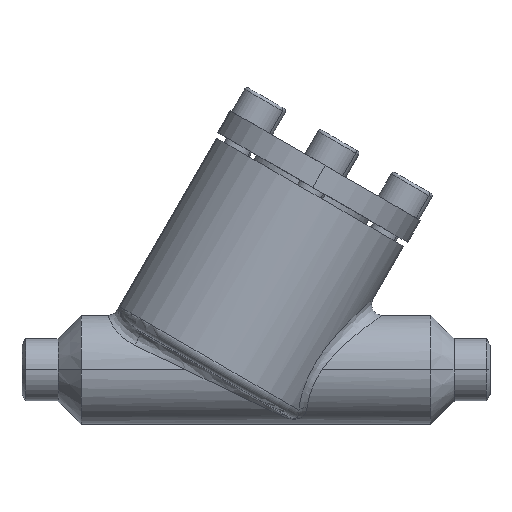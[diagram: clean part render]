
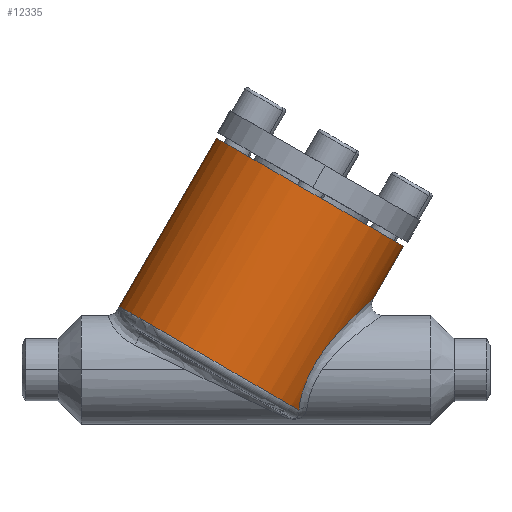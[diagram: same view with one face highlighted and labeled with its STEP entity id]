
A CAD part, top view. The second image highlights one B-rep face of the part: STEP entity #12335.
In plain terms, the highlighted cylindrical face has radius 30 mm (diameter 60 mm), a partial arc.
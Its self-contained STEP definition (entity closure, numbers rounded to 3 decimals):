
#5246 = CARTESIAN_POINT ( 'NONE',  ( 105.962, 34.363, 0. ) ) ;
#5476 = CARTESIAN_POINT ( 'NONE',  ( 54., 64.363, 0. ) ) ;
#5648 = CARTESIAN_POINT ( 'NONE',  ( 76.85, -11.183, 11.847 ) ) ;
#5784 = LINE ( 'NONE', #5785, #5786 ) ;
#5785 = CARTESIAN_POINT ( 'NONE',  ( 105.962, 34.363, 0. ) ) ;
#5786 = VECTOR ( 'NONE', #5789, 1000. ) ;
#5789 = DIRECTION ( 'NONE',  ( -0.5, -0.866, 0. ) ) ;
#6535 = CIRCLE ( 'NONE', #6536, 30. ) ;
#6536 = AXIS2_PLACEMENT_3D ( 'NONE', #6537, #6538, #6539 ) ;
#6537 = CARTESIAN_POINT ( 'NONE',  ( 52.981, 2.598, 0. ) ) ;
#6538 = DIRECTION ( 'NONE',  ( 0.5, 0.866, 0. ) ) ;
#6539 = DIRECTION ( 'NONE',  ( -0.866, 0.5, 0. ) ) ;
#6653 = FACE_OUTER_BOUND ( 'NONE', #12117, .T. ) ;
#6654 = CYLINDRICAL_SURFACE ( 'NONE', #6655, 30. ) ;
#6655 = AXIS2_PLACEMENT_3D ( 'NONE', #6656, #6657, #6658 ) ;
#6656 = CARTESIAN_POINT ( 'NONE',  ( 79.981, 49.363, 0. ) ) ;
#6657 = DIRECTION ( 'NONE',  ( -0.5, -0.866, 0. ) ) ;
#6658 = DIRECTION ( 'NONE',  ( 0.866, -0.5, 0. ) ) ;
#7244 = ORIENTED_EDGE ( 'NONE', *, *, #13519, .T. ) ;
#7717 = VERTEX_POINT ( 'NONE', #5648 ) ;
#7919 = EDGE_CURVE ( 'NONE', #8639, #7717, #6535, .T. ) ;
#8255 = ORIENTED_EDGE ( 'NONE', *, *, #7919, .T. ) ;
#8639 = VERTEX_POINT ( 'NONE', #13325 ) ;
#8724 = EDGE_CURVE ( 'NONE', #9730, #8639, #13340, .T. ) ;
#9059 = ORIENTED_EDGE ( 'NONE', *, *, #8724, .T. ) ;
#9226 = CARTESIAN_POINT ( 'NONE',  ( 97.438, 19.6, 0. ) ) ;
#9531 = VERTEX_POINT ( 'NONE', #5246 ) ;
#9730 = VERTEX_POINT ( 'NONE', #5476 ) ;
#11312 = EDGE_CURVE ( 'NONE', #9730, #9531, #13039, .T. ) ;
#11648 = ORIENTED_EDGE ( 'NONE', *, *, #11312, .F. ) ;
#12117 = EDGE_LOOP ( 'NONE', ( #11648, #9059, #8255, #7244, #13298 ) ) ;
#12335 = ADVANCED_FACE ( 'NONE', ( #6653 ), #6654, .T. ) ;
#12807 = B_SPLINE_CURVE_WITH_KNOTS ( 'NONE', 3,
 ( #12808, #12809, #12810, #12811, #12812, #12813, #12814, #12815, #12816, #12817, #12818, #12819, #12822, #12823, #12824, #12825, #12826, #12827, #12828, #12829, #12830, #12831, #12832, #12833, #12834, #12835, #12836, #12837, #12839, #12840, #12841, #12842, #12843, #12844, #12845, #12846, #12847, #12848, #12849, #12850, #12851, #12852, #12853, #12854, #12856, #12857, #12858, #12859 ),
 .UNSPECIFIED., .F., .F.,
 ( 4, 2, 2, 2, 2, 2, 2, 2, 2, 2, 2, 2, 2, 2, 2, 2, 2, 2, 2, 2, 2, 2, 2, 4 ),
 ( 0., 0.001, 0.003, 0.006, 0.007, 0.009, 0.012, 0.013, 0.015, 0.018, 0.021, 0.022, 0.023, 0.029, 0.032, 0.035, 0.037, 0.038, 0.041, 0.043, 0.044, 0.045, 0.046, 0.047 ),
 .UNSPECIFIED. ) ;
#12808 = CARTESIAN_POINT ( 'NONE',  ( 76.85, -11.183, 11.847 ) ) ;
#12809 = CARTESIAN_POINT ( 'NONE',  ( 76.899, -10.819, 12.172 ) ) ;
#12810 = CARTESIAN_POINT ( 'NONE',  ( 76.955, -10.443, 12.48 ) ) ;
#12811 = CARTESIAN_POINT ( 'NONE',  ( 77.086, -9.668, 13.062 ) ) ;
#12812 = CARTESIAN_POINT ( 'NONE',  ( 77.161, -9.268, 13.338 ) ) ;
#12813 = CARTESIAN_POINT ( 'NONE',  ( 77.413, -8.051, 14.104 ) ) ;
#12814 = CARTESIAN_POINT ( 'NONE',  ( 77.62, -7.214, 14.541 ) ) ;
#12815 = CARTESIAN_POINT ( 'NONE',  ( 77.997, -5.928, 15.093 ) ) ;
#12816 = CARTESIAN_POINT ( 'NONE',  ( 78.134, -5.494, 15.261 ) ) ;
#12817 = CARTESIAN_POINT ( 'NONE',  ( 78.432, -4.617, 15.562 ) ) ;
#12818 = CARTESIAN_POINT ( 'NONE',  ( 78.593, -4.172, 15.696 ) ) ;
#12819 = CARTESIAN_POINT ( 'NONE',  ( 79.107, -2.851, 16.045 ) ) ;
#12822 = CARTESIAN_POINT ( 'NONE',  ( 79.489, -1.977, 16.208 ) ) ;
#12823 = CARTESIAN_POINT ( 'NONE',  ( 80.122, -0.679, 16.365 ) ) ;
#12824 = CARTESIAN_POINT ( 'NONE',  ( 80.343, -0.248, 16.402 ) ) ;
#12825 = CARTESIAN_POINT ( 'NONE',  ( 80.803, 0.61, 16.449 ) ) ;
#12826 = CARTESIAN_POINT ( 'NONE',  ( 81.043, 1.037, 16.458 ) ) ;
#12827 = CARTESIAN_POINT ( 'NONE',  ( 81.779, 2.297, 16.445 ) ) ;
#12828 = CARTESIAN_POINT ( 'NONE',  ( 82.297, 3.112, 16.384 ) ) ;
#12829 = CARTESIAN_POINT ( 'NONE',  ( 83.374, 4.703, 16.171 ) ) ;
#12830 = CARTESIAN_POINT ( 'NONE',  ( 83.934, 5.479, 16.019 ) ) ;
#12831 = CARTESIAN_POINT ( 'NONE',  ( 84.801, 6.617, 15.726 ) ) ;
#12832 = CARTESIAN_POINT ( 'NONE',  ( 85.095, 6.992, 15.618 ) ) ;
#12833 = CARTESIAN_POINT ( 'NONE',  ( 85.684, 7.728, 15.382 ) ) ;
#12834 = CARTESIAN_POINT ( 'NONE',  ( 85.981, 8.09, 15.254 ) ) ;
#12835 = CARTESIAN_POINT ( 'NONE',  ( 87.472, 9.87, 14.566 ) ) ;
#12836 = CARTESIAN_POINT ( 'NONE',  ( 88.689, 11.203, 13.865 ) ) ;
#12837 = CARTESIAN_POINT ( 'NONE',  ( 90.504, 13.088, 12.555 ) ) ;
#12839 = CARTESIAN_POINT ( 'NONE',  ( 91.099, 13.689, 12.08 ) ) ;
#12840 = CARTESIAN_POINT ( 'NONE',  ( 92.261, 14.836, 11.045 ) ) ;
#12841 = CARTESIAN_POINT ( 'NONE',  ( 92.827, 15.381, 10.484 ) ) ;
#12842 = CARTESIAN_POINT ( 'NONE',  ( 93.643, 16.155, 9.565 ) ) ;
#12843 = CARTESIAN_POINT ( 'NONE',  ( 93.91, 16.406, 9.246 ) ) ;
#12844 = CARTESIAN_POINT ( 'NONE',  ( 94.43, 16.891, 8.577 ) ) ;
#12845 = CARTESIAN_POINT ( 'NONE',  ( 94.683, 17.124, 8.227 ) ) ;
#12846 = CARTESIAN_POINT ( 'NONE',  ( 95.404, 17.786, 7.147 ) ) ;
#12847 = CARTESIAN_POINT ( 'NONE',  ( 95.84, 18.18, 6.378 ) ) ;
#12848 = CARTESIAN_POINT ( 'NONE',  ( 96.402, 18.683, 5.129 ) ) ;
#12849 = CARTESIAN_POINT ( 'NONE',  ( 96.575, 18.837, 4.694 ) ) ;
#12850 = CARTESIAN_POINT ( 'NONE',  ( 96.877, 19.105, 3.803 ) ) ;
#12851 = CARTESIAN_POINT ( 'NONE',  ( 97.006, 19.22, 3.348 ) ) ;
#12852 = CARTESIAN_POINT ( 'NONE',  ( 97.217, 19.406, 2.42 ) ) ;
#12853 = CARTESIAN_POINT ( 'NONE',  ( 97.299, 19.478, 1.946 ) ) ;
#12854 = CARTESIAN_POINT ( 'NONE',  ( 97.382, 19.551, 1.218 ) ) ;
#12856 = CARTESIAN_POINT ( 'NONE',  ( 97.403, 19.57, 0.973 ) ) ;
#12857 = CARTESIAN_POINT ( 'NONE',  ( 97.431, 19.594, 0.485 ) ) ;
#12858 = CARTESIAN_POINT ( 'NONE',  ( 97.438, 19.6, 0.242 ) ) ;
#12859 = CARTESIAN_POINT ( 'NONE',  ( 97.438, 19.6, 0. ) ) ;
#13039 = CIRCLE ( 'NONE', #13040, 30. ) ;
#13040 = AXIS2_PLACEMENT_3D ( 'NONE', #13041, #13043, #13044 ) ;
#13041 = CARTESIAN_POINT ( 'NONE',  ( 79.981, 49.363, 0. ) ) ;
#13043 = DIRECTION ( 'NONE',  ( 0.5, 0.866, 0. ) ) ;
#13044 = DIRECTION ( 'NONE',  ( -0.866, 0.5, 0. ) ) ;
#13280 = EDGE_CURVE ( 'NONE', #9531, #13386, #5784, .T. ) ;
#13298 = ORIENTED_EDGE ( 'NONE', *, *, #13280, .F. ) ;
#13325 = CARTESIAN_POINT ( 'NONE',  ( 27., 17.598, 0. ) ) ;
#13340 = LINE ( 'NONE', #13341, #13342 ) ;
#13341 = CARTESIAN_POINT ( 'NONE',  ( 54., 64.363, 0. ) ) ;
#13342 = VECTOR ( 'NONE', #13343, 1000. ) ;
#13343 = DIRECTION ( 'NONE',  ( -0.5, -0.866, 0. ) ) ;
#13386 = VERTEX_POINT ( 'NONE', #9226 ) ;
#13519 = EDGE_CURVE ( 'NONE', #7717, #13386, #12807, .T. ) ;
